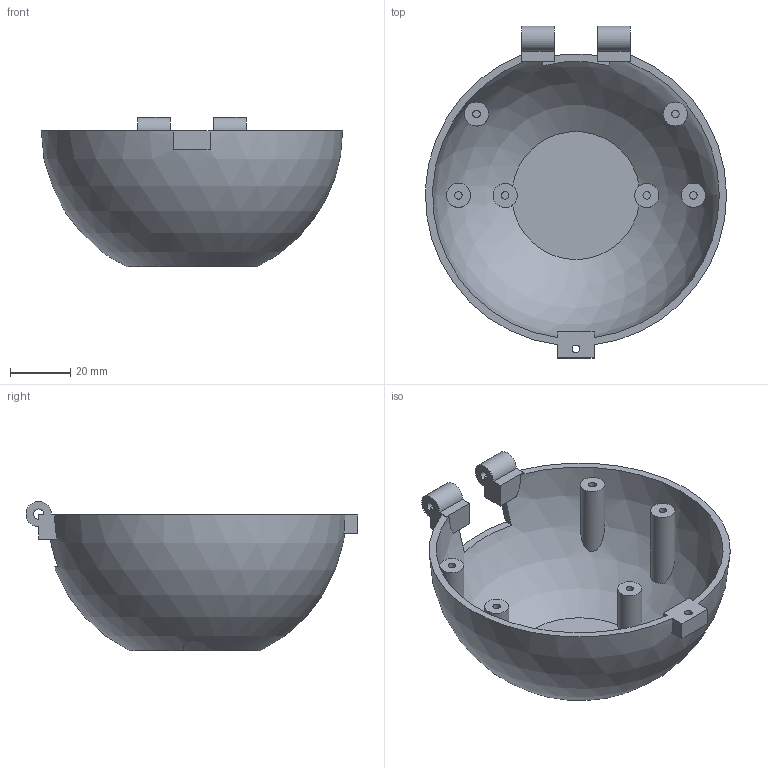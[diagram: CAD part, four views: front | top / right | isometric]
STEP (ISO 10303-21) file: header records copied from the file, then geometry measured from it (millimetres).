
FILE_DESCRIPTION(('Open CASCADE Model'),'2;1');
FILE_NAME('Open CASCADE Shape Model','2026-09-16T15:55:10',('Author'),( 'Open CASCADE'),'Open CASCADE STEP processor 7.9','Open CASCADE 7.9' ,'Unknown');
FILE_SCHEMA(('AUTOMOTIVE_DESIGN { 1 0 10303 214 1 1 1 1 }'));
Length unit declared in the file: millimetre
Products named in the file (1): Open CASCADE STEP translator 7.9 1
Bounding box: 99.96 x 110.2 x 49.5 mm (x, y, z)
Volume: 42391.8 mm3; surface area: 34103.6 mm2
Topology: 1 solids, 1 shells, 64 faces, 157 edges, 104 vertices
Faces by surface type: plane 44, cylinder 17, sphere 3
Full cylindrical faces by diameter (mm): 2.5 x6, 2.6 x1, 8 x6
Entity records: 7087 total; most frequent: CARTESIAN_POINT 3915, DIRECTION 596, ORIENTED_EDGE 314, PCURVE 314, DEFINITIONAL_REPRESENTATION 314, LINE 271, VECTOR 271, EDGE_CURVE 157
